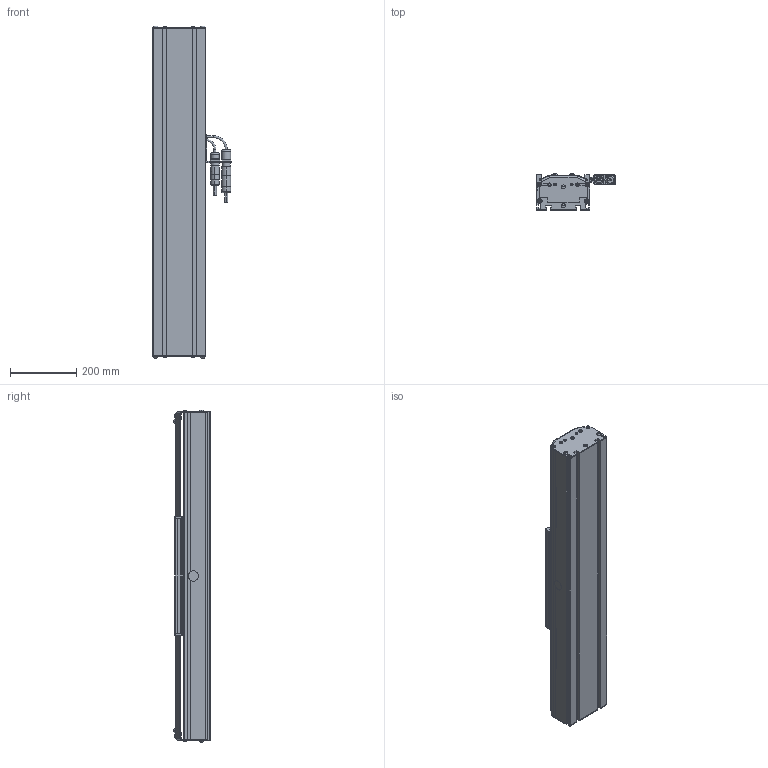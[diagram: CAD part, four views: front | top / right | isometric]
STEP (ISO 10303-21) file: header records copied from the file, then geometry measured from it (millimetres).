
FILE_DESCRIPTION (( 'STEP AP214' ), '1' );
FILE_NAME ('DSM160P.STEP', '2022-07-26T10:16:18', ( '' ), ( '' ), 'SwSTEP 2.0', 'SolidWorks 2020', '' );
FILE_SCHEMA (( 'AUTOMOTIVE_DESIGN' ));
Length unit declared in the file: millimetre
Products named in the file (5): end plate^DSM160P_pos. 1; carriage^DSM160P_carriage 2; profile^DSM160P_standard; DSM160P; plug holder^DSM160P
Assembly tree (5 placements, depth 2):
  DSM160P
    profile^DSM160P_standard
    carriage^DSM160P_carriage 2
    end plate^DSM160P_pos. 1  x2
    plug holder^DSM160P
Bounding box: 236 x 108.5 x 999.4 mm (x, y, z)
Volume: 6918537.5 mm3; surface area: 1508631.8 mm2
Topology: 20 solids, 20 shells, 872 faces, 2219 edges, 1420 vertices
Faces by surface type: plane 519, cylinder 249, sphere 40, cone 28, bspline 24, torus 12
Entity records: 26195 total; most frequent: CARTESIAN_POINT 6812, ORIENTED_EDGE 3454, DIRECTION 3374, EDGE_CURVE 1727, VECTOR 1158, LINE 1158, VERTEX_POINT 1120, AXIS2_PLACEMENT_3D 1108
